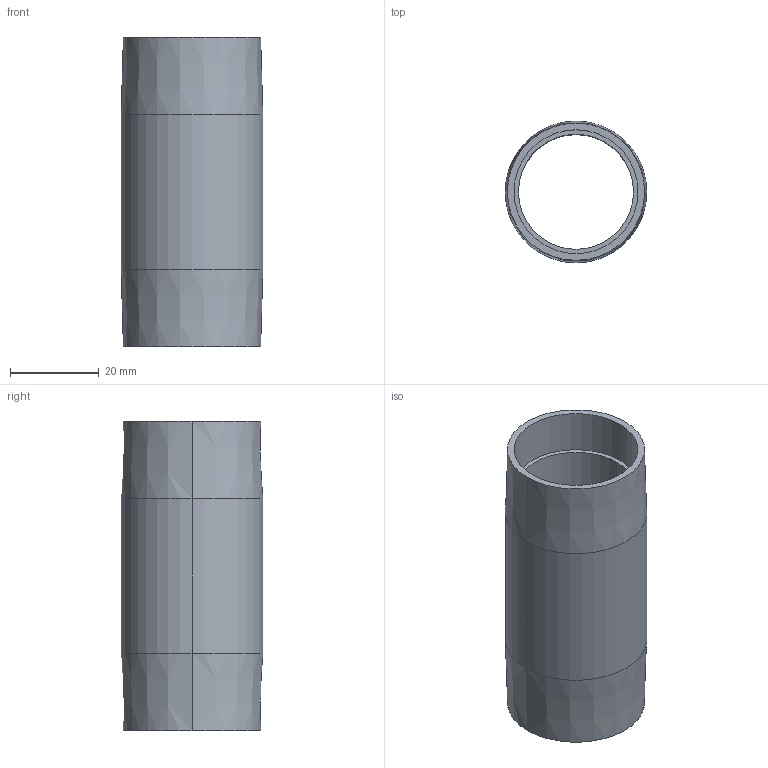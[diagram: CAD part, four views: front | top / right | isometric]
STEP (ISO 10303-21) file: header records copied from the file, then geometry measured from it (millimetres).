
FILE_DESCRIPTION (( 'STEP AP214' ), '1' );
FILE_NAME ('084.030.124.STEP', '2021-02-05T15:39:07', ( '' ), ( '' ), 'SwSTEP 2.0', 'SolidWorks 2018', '' );
FILE_SCHEMA (( 'AUTOMOTIVE_DESIGN' ));
Length unit declared in the file: millimetre
Products named in the file (1): 084.030.124
Bounding box: 32 x 32 x 70 mm (x, y, z)
Volume: 16565.4 mm3; surface area: 13274.6 mm2
Topology: 1 solids, 1 shells, 16 faces, 32 edges, 20 vertices
Faces by surface type: cylinder 8, cone 4, plane 4
Entity records: 462 total; most frequent: DIRECTION 86, CARTESIAN_POINT 69, ORIENTED_EDGE 64, AXIS2_PLACEMENT_3D 37, EDGE_CURVE 32, VERTEX_POINT 20, EDGE_LOOP 20, CIRCLE 20
